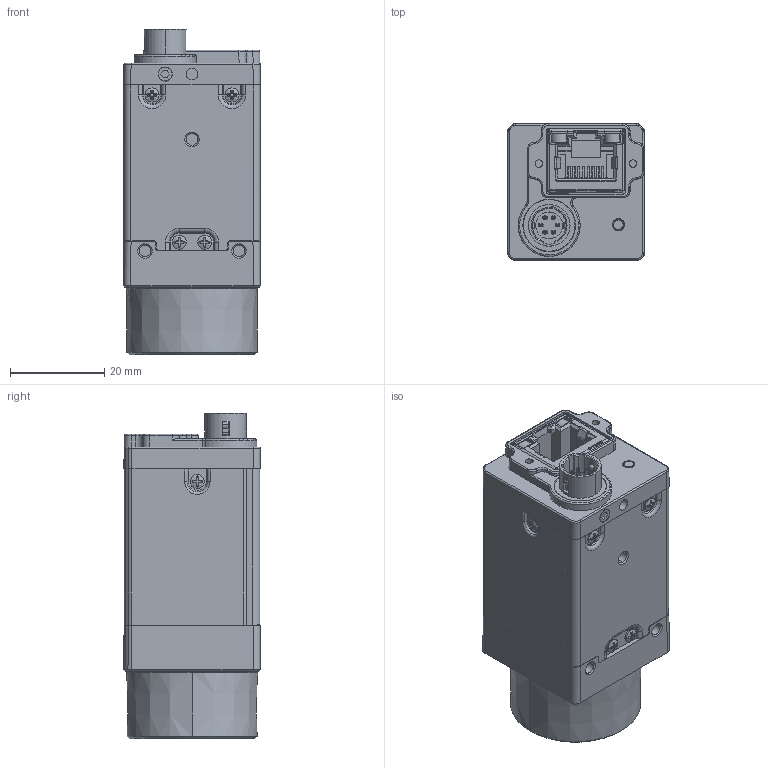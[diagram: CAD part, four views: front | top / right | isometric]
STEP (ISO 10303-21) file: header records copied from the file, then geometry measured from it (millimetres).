
FILE_DESCRIPTION((''),'2;1');
FILE_NAME('MV-CU050-90GMC','2023-10-25T11:48:33',('zhangfeixiang8'),(''),'CREO PARAMETRIC BY PTC INC, 2020044','CREO PARAMETRIC BY PTC INC, 2020044','');
FILE_SCHEMA(('CONFIG_CONTROL_DESIGN'));
Products named in the file (1): MV-CU050-90GMC
Bounding box: 29.09 x 29.05 x 69.15 mm (x, y, z)
Volume: 40192 mm3; surface area: 22967 mm2
Topology: 2 solids, 16 shells, 2477 faces, 6798 edges, 4344 vertices
Faces by surface type: plane 1209, cylinder 542, bspline 268, cone 234, torus 181, sphere 23, extrusion 20
Entity records: 96200 total; most frequent: CARTESIAN_POINT 35079, ORIENTED_EDGE 13556, DIRECTION 11816, EDGE_CURVE 6778, VERTEX_POINT 4344, AXIS2_PLACEMENT_3D 4031, VECTOR 3754, LINE 3734
